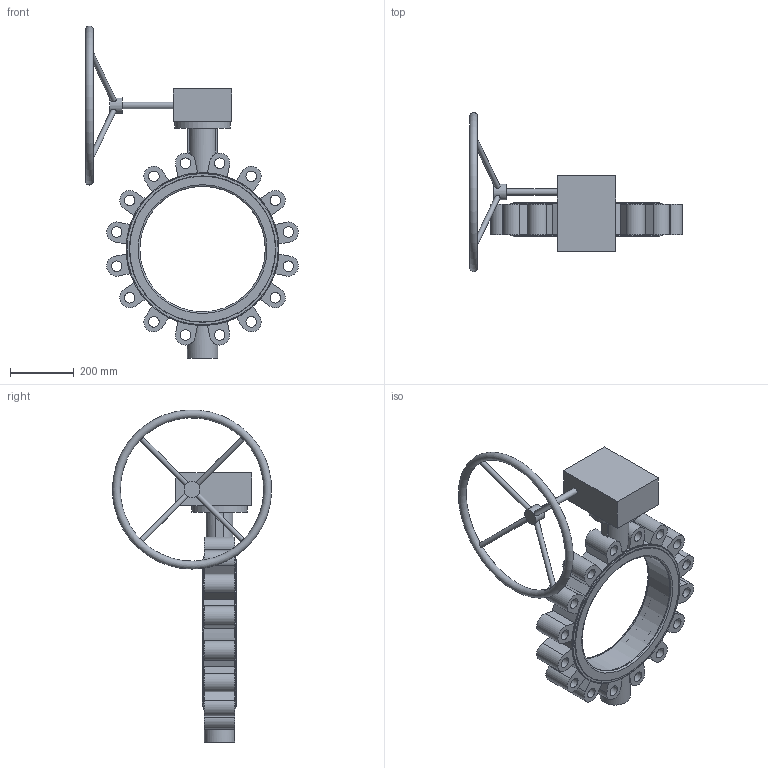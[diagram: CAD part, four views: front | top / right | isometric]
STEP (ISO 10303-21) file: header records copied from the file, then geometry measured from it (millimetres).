
FILE_DESCRIPTION (( 'STEP AP203' ), '1' );
FILE_NAME ('2502 LT型中线衬胶带销 手动头蝶阀 DN400 PN25 CD0309064.STEP', '2026-03-31T03:15:27', ( '' ), ( '' ), 'SwSTEP 2.0', 'SolidWorks 2018', '' );
FILE_SCHEMA (( 'CONFIG_CONTROL_DESIGN' ));
Length unit declared in the file: millimetre
Products named in the file (4): GALA-D400-01LC25-00; GALA-D400-04AZC-00; 2502 LT型中线衬胶带销 手动头蝶阀 DN400 PN25 CD0309064; 00. G200 手动头装配图 YN 简化
Assembly tree (3 placements, depth 2):
  2502 LT型中线衬胶带销 手动头蝶阀 DN400 PN25 CD0309064
    GALA-D400-01LC25-00
    GALA-D400-04AZC-00
    00. G200 手动头装配图 YN 简化
Bounding box: 668.7 x 499.73 x 1042.62 mm (x, y, z)
Volume: 17593450.3 mm3; surface area: 1764282.7 mm2
Topology: 3 solids, 4 shells, 161 faces, 395 edges, 259 vertices
Faces by surface type: plane 93, cylinder 52, torus 10, cone 6
Full cylindrical faces by diameter (mm): 16 x4, 20 x1, 33 x16, 40.381 x1, 50 x1, 95 x1, 175 x1, 393.842 x1, 400 x1, 400.875 x1, 460 x4, 475 x1, 480 x1
Entity records: 5920 total; most frequent: CARTESIAN_POINT 1831, DIRECTION 780, ORIENTED_EDGE 662, EDGE_CURVE 331, AXIS2_PLACEMENT_3D 308, EDGE_LOOP 272, VERTEX_POINT 247, FACE_OUTER_BOUND 201
